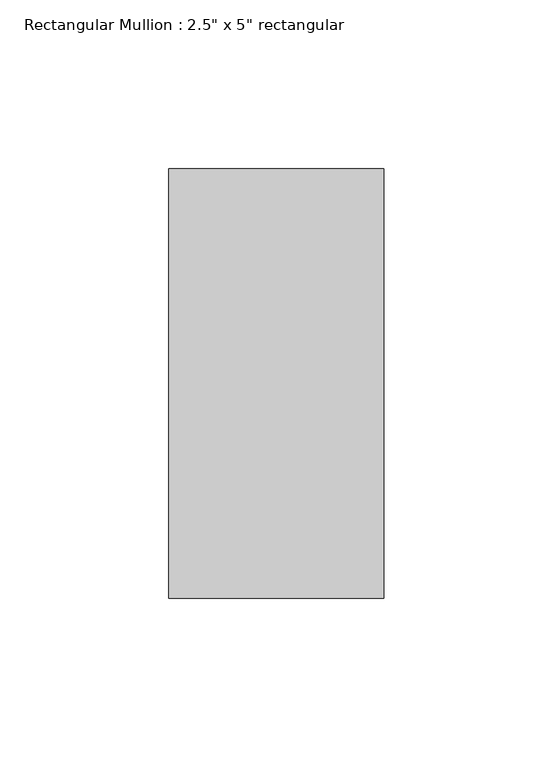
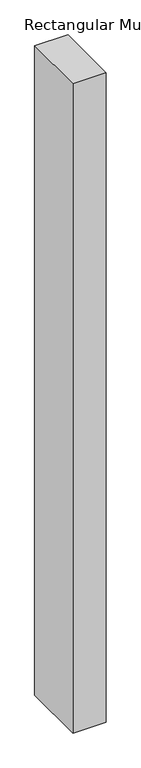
"""IFC4 building model written with IfcOpenShell, lengths in millimetres: member geometry."""

from ifc_helpers import new_model, si_unit, frame, origin, place, context, project, spatial, polyline, outline, extrude, source, transform, mapped, element, save


def member_fbf8c6f0(model_context):
    return source(origin(), model_context, "Body", "SweptSolid", [
        extrude(outline(polyline([(31.75, 63.5), (31.75, -63.5), (-31.75, -63.5), (-31.75, 63.5), (31.75, 63.5)])), frame((0.0, 0.0, -1313.7444444), z_axis=(0.0, 0.0, 1.0), x_axis=(1.0, 0.0, 0.0)), (0.0, 0.0, 1.0), 1313.7444444),
    ])


if __name__ == "__main__":
    model = new_model("IFC4")
    model_context = context("Model", 3, world=origin())
    ifc_project = project(units=[si_unit("LENGTHUNIT", "METRE", prefix="MILLI")], contexts=[model_context])
    site = spatial("IfcSite", under=ifc_project)
    building = spatial("IfcBuilding", under=site)
    placement = place(None, origin())
    member_shape = member_fbf8c6f0(model_context)
    element("IfcMember", 1, ObjectType="Rectangular Mullion : 2.5\" x 5\" rectangular", at=placement, inside=building, context=model_context, shape_type="MappedRepresentation", body=[
        mapped(member_shape, transform((0.0, 0.0, 0.0), x_axis=(1.0, 0.0, 0.0), y_axis=(0.0, 1.0, 0.0), z_axis=(0.0, 0.0, 1.0))),
    ])
    save(model, "model.ifc")
